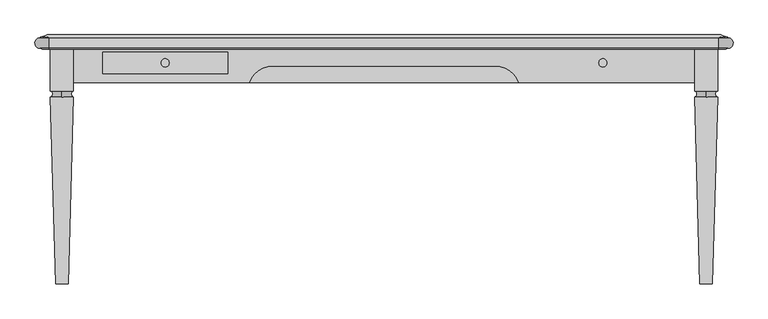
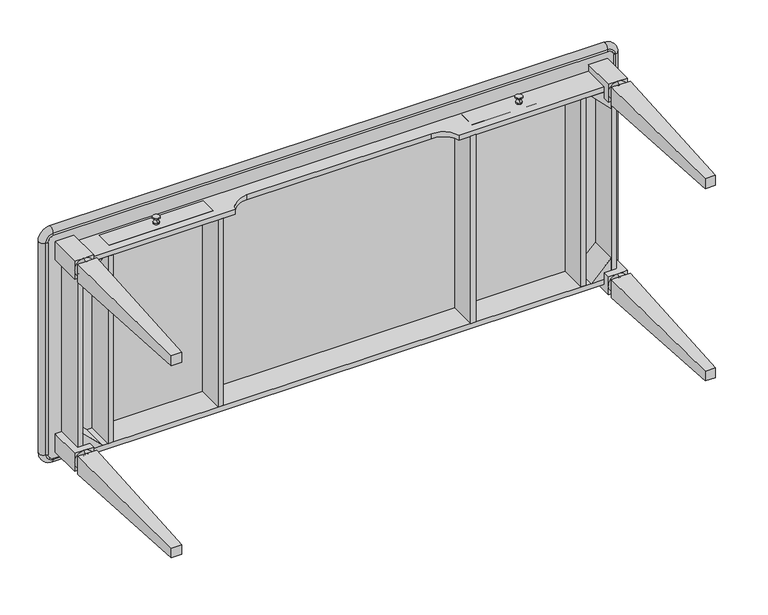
"""IFC4 building model written with IfcOpenShell, lengths in millimetres: proxy geometry, CCN^BRIGHTON_36x84 TABLE DESK-PARTS SOLID."""

from ifc_helpers import new_model, si_unit, point, frame, frame_2d, origin, origin_with_axes, place, context, project, spatial, polyline, circle_curve, ellipse_curve, trimmed, segment, composite_curve, outline, extrude, source, transform, mapped, element, save
from ifc_brep_helpers import plane_surface, cylinder_surface, revolved_surface, advanced_brep


def generic_models_e164af76(model_context):
    return source(origin(), model_context, "Body", "SolidModel", [
        advanced_brep(
        [(324.8460245, 663.775, 789.35), (324.8460245, 663.775, 793.35), (324.8460245, 688.775, 793.35), (324.8460245, 688.775, 789.35), (324.8460245, 669.775, 780.2785106), (324.8460245, 665.775, 772.35), (324.8460245, 686.775, 772.35), (324.8460245, 682.775, 780.2785106), (324.8460245, 665.775, 768.35), (324.8460245, 686.775, 768.35)],
        [
            (0, 1),
            (1, 2, circle_curve(frame((324.8460245, 676.275, 793.35), z_axis=(0.0, 0.0, -1.0), x_axis=(0.0, -1.0, 0.0)), 12.5)),
            (2, 3),
            (3, 0, circle_curve(frame((324.8460245, 676.275, 789.35), z_axis=(0.0, 0.0, 1.0), x_axis=(0.0, -1.0, 0.0)), 12.5)),
            (0, 4, circle_curve(frame((324.8460245, 659.91734, 780.2785106), z_axis=(-1.0, 0.0, 0.0), x_axis=(0.0, -1.0, 0.0)), 9.85766)),
            (4, 5, circle_curve(frame((324.8460245, 659.91734, 780.2785106), z_axis=(-1.0, 0.0, 0.0), x_axis=(0.0, -1.0, 0.0)), 9.85766)),
            (5, 6, circle_curve(frame((324.8460245, 676.275, 772.35), z_axis=(0.0, 0.0, 1.0), x_axis=(0.0, -1.0, 0.0)), 10.5)),
            (6, 7, circle_curve(frame((324.8460245, 692.63266, 780.2785106), z_axis=(-1.0, 0.0, 0.0), x_axis=(0.0, 1.0, 0.0)), 9.85766)),
            (7, 3, circle_curve(frame((324.8460245, 692.63266, 780.2785106), z_axis=(-1.0, 0.0, 0.0), x_axis=(0.0, 1.0, 0.0)), 9.85766)),
            (3, 0, circle_curve(frame((324.8460245, 676.275, 789.35), z_axis=(0.0, 0.0, -1.0), x_axis=(0.0, -1.0, 0.0)), 12.5)),
            (8, 5),
            (5, 6, circle_curve(frame((324.8460245, 676.275, 772.35), z_axis=(0.0, 0.0, -1.0), x_axis=(0.0, -1.0, 0.0)), 10.5)),
            (6, 9),
            (9, 8, circle_curve(frame((324.8460245, 676.275, 768.35), z_axis=(0.0, 0.0, 1.0), x_axis=(0.0, -1.0, 0.0)), 10.5)),
            (9, 8, circle_curve(frame((324.8460245, 676.275, 768.35), z_axis=(0.0, 0.0, -1.0), x_axis=(0.0, -1.0, 0.0)), 10.5)),
            (2, 1, circle_curve(frame((324.8460245, 676.275, 793.35), z_axis=(0.0, 0.0, -1.0), x_axis=(0.0, -1.0, 0.0)), 12.5)),
        ],
        [
            cylinder_surface(frame((324.8460245, 676.275, 791.35), z_axis=(0.0, 0.0, 1.0), x_axis=(0.0, -1.0, 0.0)), 12.5),
            revolved_surface(trimmed(ellipse_curve(frame((324.8460245, 659.91734, 780.2785106), z_axis=(1.0, 0.0, 0.0), x_axis=(0.0, -1.0, 0.0)), 9.85766, 9.85766), [point((324.8460245, 665.775, 772.35))], [point((324.8460245, 663.775, 789.35))], True, "CARTESIAN"), (324.8460245, 676.275, 780.2785106), (0.0, 0.0, 1.0)),
            cylinder_surface(frame((324.8460245, 676.275, 770.35), z_axis=(0.0, 0.0, 1.0), x_axis=(0.0, -1.0, 0.0)), 10.5),
            plane_surface(frame((324.8460245, 665.775, 768.35), z_axis=(0.0, 0.0, -1.0), x_axis=(0.0, 1.0, 0.0))),
            revolved_surface(trimmed(ellipse_curve(frame((324.8460245, 692.63266, 780.2785106), z_axis=(-1.0, 0.0, 0.0), x_axis=(0.0, 1.0, 0.0)), 9.85766, 9.85766), [point((324.8460245, 686.775, 772.35))], [point((324.8460245, 688.775, 789.35))], True, "CARTESIAN"), (324.8460245, 676.275, 780.2785106), (0.0, 0.0, 1.0)),
            plane_surface(frame((324.8460245, 676.275, 793.35), z_axis=(0.0, 0.0, 1.0), x_axis=(0.0, -1.0, 0.0))),
        ],
        [
            (0, [[1, 2, 3, 4]]),
            (1, [[5, 6, 7, 8, 9, 10]]),
            (2, [[11, 12, 13, 14]]),
            (3, [[15, -14]]),
            (2, [[-11, -15, -13, -7]]),
            (4, [[-5, -4, -9, -8, -12, -6]]),
            (0, [[-1, -10, -3, 16]]),
            (5, [[-16, -2]]),
        ],
    ),
        advanced_brep(
        [(1662.7039755, 663.775, 789.35), (1662.7039755, 663.775, 793.35), (1662.7039755, 688.775, 793.35), (1662.7039755, 688.775, 789.35), (1662.7039755, 669.775, 780.2785106), (1662.7039755, 665.775, 772.35), (1662.7039755, 686.775, 772.35), (1662.7039755, 682.775, 780.2785106), (1662.7039755, 665.775, 768.35), (1662.7039755, 686.775, 768.35)],
        [
            (0, 1),
            (1, 2, circle_curve(frame((1662.7039755, 676.275, 793.35), z_axis=(0.0, 0.0, -1.0), x_axis=(0.0, -1.0, 0.0)), 12.5)),
            (2, 3),
            (3, 0, circle_curve(frame((1662.7039755, 676.275, 789.35), z_axis=(0.0, 0.0, 1.0), x_axis=(0.0, -1.0, 0.0)), 12.5)),
            (0, 4, circle_curve(frame((1662.7039755, 659.91734, 780.2785106), z_axis=(-1.0, 0.0, 0.0), x_axis=(0.0, -1.0, 0.0)), 9.85766)),
            (4, 5, circle_curve(frame((1662.7039755, 659.91734, 780.2785106), z_axis=(-1.0, 0.0, 0.0), x_axis=(0.0, -1.0, 0.0)), 9.85766)),
            (5, 6, circle_curve(frame((1662.7039755, 676.275, 772.35), z_axis=(0.0, 0.0, 1.0), x_axis=(0.0, -1.0, 0.0)), 10.5)),
            (6, 7, circle_curve(frame((1662.7039755, 692.63266, 780.2785106), z_axis=(-1.0, 0.0, 0.0), x_axis=(0.0, 1.0, 0.0)), 9.85766)),
            (7, 3, circle_curve(frame((1662.7039755, 692.63266, 780.2785106), z_axis=(-1.0, 0.0, 0.0), x_axis=(0.0, 1.0, 0.0)), 9.85766)),
            (3, 0, circle_curve(frame((1662.7039755, 676.275, 789.35), z_axis=(0.0, 0.0, -1.0), x_axis=(0.0, -1.0, 0.0)), 12.5)),
            (8, 5),
            (5, 6, circle_curve(frame((1662.7039755, 676.275, 772.35), z_axis=(0.0, 0.0, -1.0), x_axis=(0.0, -1.0, 0.0)), 10.5)),
            (6, 9),
            (9, 8, circle_curve(frame((1662.7039755, 676.275, 768.35), z_axis=(0.0, 0.0, 1.0), x_axis=(0.0, -1.0, 0.0)), 10.5)),
            (9, 8, circle_curve(frame((1662.7039755, 676.275, 768.35), z_axis=(0.0, 0.0, -1.0), x_axis=(0.0, -1.0, 0.0)), 10.5)),
            (2, 1, circle_curve(frame((1662.7039755, 676.275, 793.35), z_axis=(0.0, 0.0, -1.0), x_axis=(0.0, -1.0, 0.0)), 12.5)),
        ],
        [
            cylinder_surface(frame((1662.7039755, 676.275, 791.35), z_axis=(0.0, 0.0, 1.0), x_axis=(0.0, -1.0, 0.0)), 12.5),
            revolved_surface(trimmed(ellipse_curve(frame((1662.7039755, 659.91734, 780.2785106), z_axis=(1.0, 0.0, 0.0), x_axis=(0.0, -1.0, 0.0)), 9.85766, 9.85766), [point((1662.7039755, 665.775, 772.35))], [point((1662.7039755, 663.775, 789.35))], True, "CARTESIAN"), (1662.7039755, 676.275, 780.2785106), (0.0, 0.0, 1.0)),
            cylinder_surface(frame((1662.7039755, 676.275, 770.35), z_axis=(0.0, 0.0, 1.0), x_axis=(0.0, -1.0, 0.0)), 10.5),
            plane_surface(frame((1662.7039755, 665.775, 768.35), z_axis=(0.0, 0.0, -1.0), x_axis=(0.0, 1.0, 0.0))),
            revolved_surface(trimmed(ellipse_curve(frame((1662.7039755, 692.63266, 780.2785106), z_axis=(-1.0, 0.0, 0.0), x_axis=(0.0, 1.0, 0.0)), 9.85766, 9.85766), [point((1662.7039755, 686.775, 772.35))], [point((1662.7039755, 688.775, 789.35))], True, "CARTESIAN"), (1662.7039755, 676.275, 780.2785106), (0.0, 0.0, 1.0)),
            plane_surface(frame((1662.7039755, 676.275, 793.35), z_axis=(0.0, 0.0, 1.0), x_axis=(0.0, -1.0, 0.0))),
        ],
        [
            (0, [[1, 2, 3, 4]]),
            (1, [[5, 6, 7, 8, 9, 10]]),
            (2, [[11, 12, 13, 14]]),
            (3, [[15, -14]]),
            (2, [[-11, -15, -13, -7]]),
            (4, [[-5, -4, -9, -8, -12, -6]]),
            (0, [[-1, -10, -3, 16]]),
            (5, [[-16, -2]]),
        ],
    ),
        advanced_brep(
        [(-28.575, 717.55, -50.0632387), (2016.125, 717.55, -50.0632387), (2037.6132387, 717.55, -28.575), (2037.6132387, 717.55, 796.925), (2016.125, 717.55, 818.4132387), (-28.575, 717.55, 818.4132387), (-50.0632387, 717.55, 796.925), (-50.0632387, 717.55, -28.575), (-35.1859266, 762.0, -35.1859266), (-35.1859266, 762.0, 803.5359266), (2022.7359266, 762.0, 803.5359266), (2022.7359266, 762.0, -35.1859266), (-48.7805763, 757.0519522, -48.7805763), (-57.15, 754.0057311, -28.575), (-57.15, 754.0057311, 796.925), (-48.7805763, 757.0519522, 817.1305763), (2036.3305763, 757.0519522, -48.7805763), (2016.125, 754.0057311, -57.15), (-28.575, 754.0057311, -57.15), (-28.575, 752.4182311, -57.15), (-57.15, 752.4182311, -28.575), (-28.575, 754.0057311, 825.5), (2016.125, 754.0057311, 825.5), (2036.3305763, 757.0519522, 817.1305763), (-57.15, 752.4182311, 796.925), (-28.575, 752.4182311, 825.5), (2044.7, 754.0057311, 796.925), (2044.7, 754.0057311, -28.575), (2016.125, 752.4182311, 825.5), (2044.7, 752.4182311, 796.925), (2044.7, 752.4182311, -28.575), (2016.125, 752.4182311, -57.15), (2016.125, 720.7087803, -56.0160714), (-28.575, 720.7087803, -56.0160714), (2043.5660714, 720.7087803, -28.575), (2043.5660714, 720.7087803, 796.925), (2016.125, 720.7087803, 824.3660714), (-28.575, 720.7087803, 824.3660714), (-56.0160714, 720.7087803, 796.925), (-56.0160714, 720.7087803, -28.575)],
        [
            (0, 1),
            (1, 2, circle_curve(frame((2016.125, 717.55, -28.575), z_axis=(0.0, -1.0, 0.0), x_axis=(1.0, 0.0, 0.0)), 21.4882387)),
            (2, 3),
            (3, 4, circle_curve(frame((2016.125, 717.55, 796.925), z_axis=(0.0, -1.0, 0.0), x_axis=(0.0, 0.0, 1.0)), 21.4882387)),
            (4, 5),
            (5, 6, circle_curve(frame((-28.575, 717.55, 796.925), z_axis=(0.0, -1.0, 0.0), x_axis=(-1.0, 0.0, 0.0)), 21.4882387)),
            (6, 7),
            (7, 0, circle_curve(frame((-28.575, 717.55, -28.575), z_axis=(0.0, -1.0, 0.0), x_axis=(0.0, 0.0, -1.0)), 21.4882387)),
            (8, 9),
            (9, 10),
            (10, 11),
            (11, 8),
            (12, 13, ellipse_curve(frame((-28.575, 764.4061805, -28.575), z_axis=(-0.3420201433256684, 0.9396926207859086, 0.0), x_axis=(0.9396926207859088, 0.34202014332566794, 0.0)), 30.4088798, 28.575)),
            (13, 14),
            (14, 15, ellipse_curve(frame((-28.575, 764.4061805, 796.925), z_axis=(-0.3420201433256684, 0.9396926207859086, 0.0), x_axis=(0.9396926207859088, 0.34202014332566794, 0.0)), 30.4088798, 28.575)),
            (15, 9),
            (8, 12),
            (11, 16),
            (16, 17, ellipse_curve(frame((2016.125, 764.4061805, -28.575), z_axis=(0.0, 0.9396926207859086, -0.34202014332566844), x_axis=(0.0, 0.342020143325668, 0.9396926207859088)), 30.4088798, 28.575)),
            (17, 18),
            (18, 12, ellipse_curve(frame((-28.575, 764.4061805, -28.575), z_axis=(0.0, 0.9396926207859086, -0.34202014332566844), x_axis=(0.0, 0.342020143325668, 0.9396926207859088)), 30.4088798, 28.575)),
            (18, 19),
            (19, 20, circle_curve(frame((-28.575, 752.4182311, -28.575), z_axis=(0.0, 1.0, 0.0), x_axis=(0.0, 0.0, -1.0)), 28.575)),
            (20, 13),
            (15, 21, ellipse_curve(frame((-28.575, 764.4061805, 796.925), z_axis=(0.0, 0.9396926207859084, 0.34202014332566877), x_axis=(0.0, 0.3420201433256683, -0.9396926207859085)), 30.4088798, 28.575)),
            (21, 22),
            (22, 23, ellipse_curve(frame((2016.125, 764.4061805, 796.925), z_axis=(0.0, 0.9396926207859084, 0.34202014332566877), x_axis=(0.0, 0.3420201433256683, -0.9396926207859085)), 30.4088798, 28.575)),
            (23, 10),
            (14, 24),
            (24, 25, circle_curve(frame((-28.575, 752.4182311, 796.925), z_axis=(0.0, 1.0, 0.0), x_axis=(-1.0, 0.0, 0.0)), 28.575)),
            (25, 21),
            (23, 26, ellipse_curve(frame((2016.125, 764.4061805, 796.925), z_axis=(0.3420201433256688, 0.9396926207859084, 0.0), x_axis=(-0.9396926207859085, 0.3420201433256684, 0.0)), 30.4088798, 28.575)),
            (26, 27),
            (27, 16, ellipse_curve(frame((2016.125, 764.4061805, -28.575), z_axis=(0.3420201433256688, 0.9396926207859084, 0.0), x_axis=(-0.9396926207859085, 0.3420201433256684, 0.0)), 30.4088798, 28.575)),
            (22, 28),
            (28, 29, circle_curve(frame((2016.125, 752.4182311, 796.925), z_axis=(0.0, 1.0, 0.0), x_axis=(0.0, 0.0, 1.0)), 28.575)),
            (29, 26),
            (27, 30),
            (30, 31, circle_curve(frame((2016.125, 752.4182311, -28.575), z_axis=(0.0, 1.0, 0.0), x_axis=(1.0, 0.0, 0.0)), 28.575)),
            (31, 17),
            (32, 1, circle_curve(frame((2016.125, 714.375, -55.5625), z_axis=(1.0, 0.0, 0.0), x_axis=(0.0, 0.9974457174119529, -0.07142857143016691)), 6.35)),
            (0, 33, circle_curve(frame((-28.575, 714.375, -55.5625), z_axis=(-1.0, 0.0, 0.0), x_axis=(0.0, 0.9974457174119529, -0.07142857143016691)), 6.35)),
            (33, 32),
            (34, 2, circle_curve(frame((2043.1125, 714.375, -28.575), z_axis=(0.0, 0.0, 1.0), x_axis=(1.0, 0.0, 0.0)), 6.35)),
            (32, 34, circle_curve(frame((2016.125, 720.7087803, -28.575), z_axis=(0.0, -1.0, 0.0), x_axis=(1.0, 0.0, 0.0)), 27.4410714)),
            (35, 3, circle_curve(frame((2043.1125, 714.375, 796.925), z_axis=(0.0, 0.0, 1.0), x_axis=(0.07142857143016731, 0.9974457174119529, 0.0)), 6.35)),
            (34, 35),
            (36, 4, circle_curve(frame((2016.125, 714.375, 823.9125), z_axis=(-1.0, 0.0, 0.0), x_axis=(0.0, 0.0, 1.0)), 6.35)),
            (35, 36, circle_curve(frame((2016.125, 720.7087803, 796.925), z_axis=(0.0, -1.0, 0.0), x_axis=(0.0, 0.0, 1.0)), 27.4410714)),
            (37, 5, circle_curve(frame((-28.575, 714.375, 823.9125), z_axis=(-1.0, 0.0, 0.0), x_axis=(0.0, 0.9974457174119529, 0.07142857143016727)), 6.35)),
            (36, 37),
            (38, 6, circle_curve(frame((-55.5625, 714.375, 796.925), z_axis=(0.0, 0.0, -1.0), x_axis=(-1.0, 0.0, 0.0)), 6.35)),
            (37, 38, circle_curve(frame((-28.575, 720.7087803, 796.925), z_axis=(0.0, -1.0, 0.0), x_axis=(-1.0, 0.0, 0.0)), 27.4410714)),
            (39, 7, circle_curve(frame((-55.5625, 714.375, -28.575), z_axis=(0.0, 0.0, -1.0), x_axis=(-0.07142857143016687, 0.9974457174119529, 0.0)), 6.35)),
            (38, 39),
            (39, 33, circle_curve(frame((-28.575, 720.7087803, -28.575), z_axis=(0.0, -1.0, 0.0), x_axis=(0.0, 0.0, -1.0)), 27.4410714)),
            (31, 19),
            (31, 32, circle_curve(frame((2016.125, 736.5432311, -57.15), z_axis=(-1.0, 0.0, 0.0), x_axis=(0.0, 0.996424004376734, -0.08449380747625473)), 15.875)),
            (33, 19, circle_curve(frame((-28.575, 736.5432311, -57.15), z_axis=(1.0, 0.0, 0.0), x_axis=(0.0, 0.996424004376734, -0.08449380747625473)), 15.875)),
            (30, 34, circle_curve(frame((2044.7, 736.5432311, -28.575), z_axis=(0.0, 0.0, -1.0), x_axis=(1.0, 0.0, 0.0)), 15.875)),
            (29, 30),
            (29, 35, circle_curve(frame((2044.7, 736.5432311, 796.925), z_axis=(0.0, 0.0, -1.0), x_axis=(0.08449380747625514, 0.996424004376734, 0.0)), 15.875)),
            (28, 36, circle_curve(frame((2016.125, 736.5432311, 825.5), z_axis=(1.0, 0.0, 0.0), x_axis=(0.0, 0.0, 1.0)), 15.875)),
            (25, 28),
            (25, 37, circle_curve(frame((-28.575, 736.5432311, 825.5), z_axis=(1.0, 0.0, 0.0), x_axis=(0.0, 0.996424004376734, 0.0844938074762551)), 15.875)),
            (24, 38, circle_curve(frame((-57.15, 736.5432311, 796.925), z_axis=(0.0, 0.0, 1.0), x_axis=(-1.0, 0.0, 0.0)), 15.875)),
            (20, 24),
            (20, 39, circle_curve(frame((-57.15, 736.5432311, -28.575), z_axis=(0.0, 0.0, 1.0), x_axis=(-0.08449380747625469, 0.996424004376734, 0.0)), 15.875)),
        ],
        [
            plane_surface(frame((993.775, 717.55, 384.175), z_axis=(0.0, -1.0, 0.0), x_axis=(0.0, 0.0, 1.0))),
            plane_surface(frame((993.775, 762.0, 384.175), z_axis=(0.0, 1.0, 0.0), x_axis=(0.0, 0.0, 1.0))),
            plane_surface(frame((-57.15, 754.0057311, -28.575), z_axis=(-0.3420201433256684, 0.9396926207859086, 0.0), x_axis=(0.9396926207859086, 0.3420201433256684, 0.0))),
            plane_surface(frame((2016.125, 754.0057311, -57.15), z_axis=(0.0, 0.9396926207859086, -0.34202014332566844), x_axis=(0.0, 0.34202014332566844, 0.9396926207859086))),
            cylinder_surface(frame((-28.575, 753.2119811, -28.575), z_axis=(0.0, 1.0, 0.0), x_axis=(0.0, 0.0, -1.0)), 28.575),
            plane_surface(frame((-28.575, 754.0057311, 825.5), z_axis=(0.0, 0.9396926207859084, 0.34202014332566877), x_axis=(0.0, 0.34202014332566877, -0.9396926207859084))),
            cylinder_surface(frame((-28.575, 753.2119811, 796.925), z_axis=(0.0, 1.0, 0.0), x_axis=(-1.0, 0.0, 0.0)), 28.575),
            plane_surface(frame((2044.7, 754.0057311, 796.925), z_axis=(0.3420201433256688, 0.9396926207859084, 0.0), x_axis=(-0.9396926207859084, 0.3420201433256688, 0.0))),
            cylinder_surface(frame((2016.125, 753.2119811, 796.925), z_axis=(0.0, 1.0, 0.0), x_axis=(0.0, 0.0, 1.0)), 28.575),
            cylinder_surface(frame((2016.125, 753.2119811, -28.575), z_axis=(0.0, 1.0, 0.0), x_axis=(1.0, 0.0, 0.0)), 28.575),
            revolved_surface(polyline([(-28.57499999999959, 720.7087803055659, -56.01607142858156), (2016.125, 720.7087803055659, -56.01607142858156)]), (2016.125, 714.375, -55.5625), (-0.9999999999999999, 0.0, 0.0)),
            revolved_surface(trimmed(ellipse_curve(frame((2043.1125, 714.375, -28.575), z_axis=(0.0, 0.0, -1.0), x_axis=(1.0, 0.0, 0.0)), 6.35, 6.35), [point((2037.6132387, 717.55, -28.575))], [point((2043.5660714, 720.7087803, -28.575))], True, "CARTESIAN"), (2016.125, 714.375, -28.575), (0.0, 1.0, 0.0)),
            revolved_surface(polyline([(2043.5660714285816, 720.7087803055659, -28.574999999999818), (2043.5660714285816, 720.7087803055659, 796.925)]), (2043.1125, 714.375, 796.925), (0.0, 0.0, -0.9999999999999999)),
            revolved_surface(trimmed(ellipse_curve(frame((2016.125, 714.375, 823.9125), z_axis=(1.0, 0.0, 0.0), x_axis=(0.0, 0.0, 1.0)), 6.35, 6.35), [point((2016.125, 717.55, 818.4132387))], [point((2016.125, 720.7087803, 824.3660714))], True, "CARTESIAN"), (2016.125, 714.375, 796.925), (0.0, 1.0, 0.0)),
            revolved_surface(polyline([(2016.1249999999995, 720.7087803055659, 824.3660714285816), (-28.575, 720.7087803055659, 824.3660714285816)]), (-28.575, 714.375, 823.9125), (0.9999999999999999, 0.0, 0.0)),
            revolved_surface(trimmed(ellipse_curve(frame((-55.5625, 714.375, 796.925), z_axis=(0.0, 0.0, 1.0), x_axis=(-1.0, 0.0, 0.0)), 6.35, 6.35), [point((-50.0632387, 717.55, 796.925))], [point((-56.0160714, 720.7087803, 796.925))], True, "CARTESIAN"), (-28.575, 714.375, 796.925), (0.0, 1.0, 0.0)),
            revolved_surface(polyline([(-56.01607142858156, 720.7087803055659, 796.9249999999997), (-56.01607142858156, 720.7087803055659, -28.575)]), (-55.5625, 714.375, -28.575), (0.0, 0.0, 0.9999999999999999)),
            revolved_surface(trimmed(ellipse_curve(frame((-28.575, 714.375, -55.5625), z_axis=(-1.0, 0.0, 0.0), x_axis=(0.0, 0.0, -1.0)), 6.35, 6.35), [point((-28.575, 717.55, -50.0632387))], [point((-28.575, 720.7087803, -56.0160714))], True, "CARTESIAN"), (-28.575, 714.375, -28.575), (0.0, 1.0, 0.0)),
            plane_surface(frame((2016.125, 752.4182311, -57.15), z_axis=(0.0, 0.0, -1.0), x_axis=(0.0, 1.0, 0.0))),
            cylinder_surface(frame((2016.125, 736.5432311, -57.15), z_axis=(-0.9999999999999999, 0.0, 0.0), x_axis=(0.0, 0.996424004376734, -0.08449380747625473)), 15.875),
            revolved_surface(trimmed(ellipse_curve(frame((2044.7, 736.5432311, -28.575), z_axis=(0.0, 0.0, 1.0), x_axis=(1.0, 0.0, 0.0)), 15.875, 15.875), [point((2043.5660714, 720.7087803, -28.575))], [point((2044.7, 752.4182311, -28.575))], True, "CARTESIAN"), (2016.125, 736.5432311, -28.575), (0.0, 1.0, 0.0)),
            plane_surface(frame((2044.7, 752.4182311, 796.925), z_axis=(1.0, 0.0, 0.0), x_axis=(0.0, 1.0, 0.0))),
            cylinder_surface(frame((2044.7, 736.5432311, 796.925), z_axis=(0.0, 0.0, -0.9999999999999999), x_axis=(0.08449380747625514, 0.996424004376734, 0.0)), 15.875),
            revolved_surface(trimmed(ellipse_curve(frame((2016.125, 736.5432311, 825.5), z_axis=(-1.0, 0.0, 0.0), x_axis=(0.0, 0.0, 1.0)), 15.875, 15.875), [point((2016.125, 720.7087803, 824.3660714))], [point((2016.125, 752.4182311, 825.5))], True, "CARTESIAN"), (2016.125, 736.5432311, 796.925), (0.0, 1.0, 0.0)),
            plane_surface(frame((-28.575, 752.4182311, 825.5), z_axis=(0.0, 0.0, 1.0), x_axis=(0.0, 1.0, 0.0))),
            cylinder_surface(frame((-28.575, 736.5432311, 825.5), z_axis=(0.9999999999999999, 0.0, 0.0), x_axis=(0.0, 0.996424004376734, 0.0844938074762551)), 15.875),
            revolved_surface(trimmed(ellipse_curve(frame((-57.15, 736.5432311, 796.925), z_axis=(0.0, 0.0, -1.0), x_axis=(-1.0, 0.0, 0.0)), 15.875, 15.875), [point((-56.0160714, 720.7087803, 796.925))], [point((-57.15, 752.4182311, 796.925))], True, "CARTESIAN"), (-28.575, 736.5432311, 796.925), (0.0, 1.0, 0.0)),
            plane_surface(frame((-57.15, 752.4182311, -28.575), z_axis=(-1.0, 0.0, 0.0), x_axis=(0.0, 1.0, 0.0))),
            cylinder_surface(frame((-57.15, 736.5432311, -28.575), z_axis=(0.0, 0.0, 0.9999999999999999), x_axis=(-0.08449380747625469, 0.996424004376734, 0.0)), 15.875),
            revolved_surface(trimmed(ellipse_curve(frame((-28.575, 736.5432311, -57.15), z_axis=(1.0, 0.0, 0.0), x_axis=(0.0, 0.0, -1.0)), 15.875, 15.875), [point((-28.575, 720.7087803, -56.0160714))], [point((-28.575, 752.4182311, -57.15))], True, "CARTESIAN"), (-28.575, 736.5432311, -28.575), (0.0, 1.0, 0.0)),
        ],
        [
            (0, [[1, 2, 3, 4, 5, 6, 7, 8]]),
            (1, [[9, 10, 11, 12]]),
            (2, [[13, 14, 15, 16, -9, 17]]),
            (3, [[-17, -12, 18, 19, 20, 21]]),
            (4, [[-13, -21, 22, 23, 24]]),
            (5, [[25, 26, 27, 28, -10, -16]]),
            (6, [[-25, -15, 29, 30, 31]]),
            (7, [[32, 33, 34, -18, -11, -28]]),
            (8, [[-32, -27, 35, 36, 37]]),
            (9, [[-19, -34, 38, 39, 40]]),
            (10, [[41, -1, 42, 43]]),
            (11, [[44, -2, -41, 45]]),
            (12, [[46, -3, -44, 47]]),
            (13, [[48, -4, -46, 49]]),
            (14, [[50, -5, -48, 51]]),
            (15, [[52, -6, -50, 53]]),
            (16, [[54, -7, -52, 55]]),
            (17, [[-42, -8, -54, 56]]),
            (18, [[-40, 57, -22, -20]]),
            (19, [[58, -43, 59, -57]]),
            (20, [[60, -45, -58, -39]]),
            (21, [[-37, 61, -38, -33]]),
            (22, [[62, -47, -60, -61]]),
            (23, [[63, -49, -62, -36]]),
            (24, [[-31, 64, -35, -26]]),
            (25, [[65, -51, -63, -64]]),
            (26, [[66, -53, -65, -30]]),
            (27, [[-24, 67, -29, -14]]),
            (28, [[68, -55, -66, -67]]),
            (29, [[-59, -56, -68, -23]]),
        ],
    ),
        advanced_brep(
        [(1978.025, 590.55, 44.45), (1978.025, 581.025, 38.1), (1978.025, 571.5, 44.45), (2012.95, 571.5, 9.525), (1978.025, 571.5, -25.4), (1978.025, 581.025, -19.05), (1978.025, 590.55, -25.4), (2012.95, 590.55, 9.525), (1943.1, 723.9, -25.4), (1943.1, 723.9, 44.45), (2012.95, 723.9, 44.45), (2012.95, 723.9, -25.4), (1943.1, 590.55, 44.45), (2012.95, 590.55, 44.45), (1943.1, 590.55, 9.525), (2012.95, 571.5, -25.4), (1997.075, 0.0, -9.525), (1958.975, 0.0, -9.525), (1943.1, 571.5, -25.4), (1997.075, 0.0, 28.575), (2012.95, 571.5, 44.45), (1943.1, 571.5, 44.45), (1958.975, 0.0, 28.575), (1943.1, 571.5, 9.525), (1943.1, 590.55, -25.4), (2012.95, 590.55, -25.4)],
        [
            (0, 1, circle_curve(frame((1978.025, 581.025, 48.41875), z_axis=(-1.0, 0.0, 0.0), x_axis=(0.0, 0.0, 1.0)), 10.31875)),
            (1, 2, circle_curve(frame((1978.025, 581.025, 48.41875), z_axis=(-1.0, 0.0, 0.0), x_axis=(0.0, 0.0, 1.0)), 10.31875)),
            (2, 3, circle_curve(frame((1978.025, 571.5, 9.525), z_axis=(0.0, 1.0, 0.0), x_axis=(0.0, 0.0, 1.0)), 34.925)),
            (3, 4, circle_curve(frame((1978.025, 571.5, 9.525), z_axis=(0.0, 1.0, 0.0), x_axis=(0.0, 0.0, 1.0)), 34.925)),
            (4, 5, circle_curve(frame((1978.025, 581.025, -29.36875), z_axis=(-1.0, 0.0, 0.0), x_axis=(0.0, 0.0, -1.0)), 10.31875)),
            (5, 6, circle_curve(frame((1978.025, 581.025, -29.36875), z_axis=(-1.0, 0.0, 0.0), x_axis=(0.0, 0.0, -1.0)), 10.31875)),
            (6, 7, circle_curve(frame((1978.025, 590.55, 9.525), z_axis=(0.0, -1.0, 0.0), x_axis=(0.0, 0.0, 1.0)), 34.925)),
            (7, 0, circle_curve(frame((1978.025, 590.55, 9.525), z_axis=(0.0, -1.0, 0.0), x_axis=(0.0, 0.0, 1.0)), 34.925)),
            (8, 9),
            (9, 10),
            (10, 11),
            (11, 8),
            (9, 12),
            (12, 0),
            (0, 13),
            (13, 10),
            (12, 14),
            (14, 0, circle_curve(frame((1978.025, 590.55, 9.525), z_axis=(0.0, 1.0, 0.0), x_axis=(0.0, 0.0, -1.0)), 34.925)),
            (15, 16),
            (16, 17),
            (17, 18),
            (18, 4),
            (4, 15),
            (19, 20),
            (20, 2),
            (2, 21),
            (21, 22),
            (22, 19),
            (17, 22),
            (21, 23),
            (23, 18),
            (15, 3),
            (3, 20),
            (19, 16),
            (14, 6, circle_curve(frame((1978.025, 590.55, 9.525), z_axis=(0.0, -1.0, 0.0), x_axis=(0.0, 0.0, -1.0)), 34.925)),
            (4, 23, circle_curve(frame((1978.025, 571.5, 9.525), z_axis=(0.0, 1.0, 0.0), x_axis=(0.0, 0.0, -1.0)), 34.925)),
            (23, 2, circle_curve(frame((1978.025, 571.5, 9.525), z_axis=(0.0, 1.0, 0.0), x_axis=(0.0, 0.0, -1.0)), 34.925)),
            (14, 24),
            (24, 6),
            (7, 13),
            (6, 25),
            (25, 7),
            (8, 24),
            (25, 11),
        ],
        [
            revolved_surface(trimmed(ellipse_curve(frame((1978.025, 581.025, 48.41875), z_axis=(1.0, 0.0, 0.0), x_axis=(0.0, 0.0, 1.0)), 10.31875, 10.31875), [point((1978.025, 571.5, 44.45))], [point((1978.025, 590.55, 44.45))], True, "CARTESIAN"), (1978.025, 581.025, 9.525), (0.0, 1.0, 0.0)),
            plane_surface(frame((1978.025, 723.9, 9.525), z_axis=(0.0, 1.0, 0.0), x_axis=(0.0, 0.0, -1.0))),
            plane_surface(frame((2012.95, 723.9, 44.45), z_axis=(0.0, 0.0, 1.0), x_axis=(-1.0, 0.0, 0.0))),
            plane_surface(frame((1978.025, 590.55, 9.525), z_axis=(0.0, -1.0, 0.0), x_axis=(0.0, 0.0, -1.0))),
            plane_surface(frame((-25.4, 571.5, -25.4), z_axis=(0.0, -0.027767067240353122, -0.9996144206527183), x_axis=(0.0, -0.9996144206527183, 0.027767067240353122))),
            plane_surface(frame((-25.4, 0.0, 28.575), z_axis=(0.0, -0.027767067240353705, 0.9996144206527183), x_axis=(0.0, 0.9996144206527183, 0.027767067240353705))),
            plane_surface(frame((1958.975, 0.0, -25.4), z_axis=(-0.9996144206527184, -0.02776706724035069, 0.0), x_axis=(-0.02776706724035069, 0.9996144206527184, 0.0))),
            plane_surface(frame((2012.95, 571.5, -25.4), z_axis=(0.9996144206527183, -0.027767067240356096, 0.0), x_axis=(-0.027767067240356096, -0.9996144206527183, 0.0))),
            revolved_surface(trimmed(ellipse_curve(frame((1978.025, 581.025, -29.36875), z_axis=(-1.0, 0.0, 0.0), x_axis=(0.0, 0.0, -1.0)), 10.31875, 10.31875), [point((1978.025, 571.5, -25.4))], [point((1978.025, 590.55, -25.4))], True, "CARTESIAN"), (1978.025, 581.025, 9.525), (0.0, 1.0, 0.0)),
            plane_surface(frame((1978.025, 571.5, 9.525), z_axis=(0.0, 1.0, 0.0), x_axis=(0.0, 0.0, -1.0))),
            plane_surface(frame((1943.1, 723.9, 44.45), z_axis=(-1.0, 0.0, 0.0), x_axis=(0.0, 0.0, -1.0))),
            plane_surface(frame((2012.95, 723.9, -25.4), z_axis=(1.0, 0.0, 0.0), x_axis=(0.0, 0.0, 1.0))),
            plane_surface(frame((1943.1, 723.9, -25.4), z_axis=(0.0, 0.0, -1.0), x_axis=(1.0, 0.0, 0.0))),
            plane_surface(frame((1978.025, 0.0, 9.525), z_axis=(0.0, -1.0, 0.0), x_axis=(0.0, 0.0, -1.0))),
        ],
        [
            (0, [[1, 2, 3, 4, 5, 6, 7, 8]]),
            (1, [[9, 10, 11, 12]]),
            (2, [[13, 14, 15, 16, -10]]),
            (3, [[17, 18, -14]]),
            (4, [[19, 20, 21, 22, 23]]),
            (5, [[24, 25, 26, 27, 28]]),
            (6, [[-21, 29, -27, 30, 31]]),
            (7, [[-19, 32, 33, -24, 34]]),
            (8, [[-1, -18, 35, -6, -5, 36, 37, -2]]),
            (3, [[-35, 38, 39]]),
            (3, [[-8, 40, -15]]),
            (3, [[-7, 41, 42]]),
            (9, [[-4, -32, -23]]),
            (9, [[-3, -25, -33]]),
            (9, [[-37, -30, -26]]),
            (9, [[-36, -22, -31]]),
            (10, [[-9, 43, -38, -17, -13]]),
            (11, [[-40, -42, 44, -11, -16]]),
            (12, [[-41, -39, -43, -12, -44]]),
            (13, [[-20, -34, -28, -29]]),
        ],
    ),
        extrude(outline(polyline([(1875.4289755, 723.9), (1875.4289755, 615.95), (1856.3789755, 615.95), (1856.3789755, 723.9), (1875.4289755, 723.9)])), frame((0.0, 0.0, 19.05), z_axis=(0.0, 0.0, 1.0), x_axis=(1.0, 0.0, 0.0)), (0.0, 0.0, 1.0), 730.25),
        extrude(outline(polyline([(19.05, 615.95), (0.0, 615.95), (0.0, 723.9), (19.05, 723.9), (19.05, 615.95)])), frame((0.0, 0.0, 44.45), z_axis=(0.0, 0.0, 1.0), x_axis=(1.0, 0.0, 0.0)), (0.0, 0.0, 1.0), 679.45),
        extrude(outline(polyline([(19.05, 19.05), (19.05, 93.0710245), (93.0710245, 19.05), (19.05, 19.05)])), frame((0.0, 615.95, 0.0), z_axis=(0.0, 1.0, 0.0), x_axis=(0.0, 0.0, 1.0)), (0.0, 0.0, 1.0), 107.95),
        extrude(outline(polyline([(131.1710245, 723.9), (131.1710245, 615.95), (112.1210245, 615.95), (112.1210245, 723.9), (131.1710245, 723.9)])), frame((0.0, 0.0, 19.05), z_axis=(0.0, 0.0, 1.0), x_axis=(1.0, 0.0, 0.0)), (0.0, 0.0, 1.0), 730.25),
        extrude(outline(polyline([(516.1397745, 643.73125), (133.5522745, 643.73125), (133.5522745, 708.81875), (516.1397745, 708.81875), (516.1397745, 643.73125)])), frame((0.0, 0.0, 749.3), z_axis=(0.0, 0.0, 1.0), x_axis=(1.0, 0.0, 0.0)), (0.0, 0.0, 1.0), 19.05),
        extrude(outline(polyline([(19.05, 1968.5), (93.0710245, 1968.5), (19.05, 1894.4789755), (19.05, 1968.5)])), frame((0.0, 615.95, 0.0), z_axis=(0.0, 1.0, 0.0), x_axis=(0.0, 0.0, 1.0)), (0.0, 0.0, 1.0), 107.95),
        advanced_brep(
        [(1978.025, 590.55, 793.75), (1978.025, 581.025, 787.4), (1978.025, 571.5, 793.75), (2012.95, 571.5, 758.825), (1978.025, 571.5, 723.9), (1978.025, 581.025, 730.25), (1978.025, 590.55, 723.9), (2012.95, 590.55, 758.825), (2012.95, 723.9, 723.9), (1943.1, 723.9, 723.9), (1943.1, 723.9, 793.75), (2012.95, 723.9, 793.75), (1943.1, 590.55, 723.9), (1943.1, 590.55, 758.825), (1943.1, 590.55, 793.75), (1997.075, 0.0, 777.875), (2012.95, 571.5, 793.75), (1943.1, 571.5, 793.75), (1958.975, 0.0, 777.875), (2012.95, 571.5, 723.9), (1997.075, 0.0, 739.775), (1958.975, 0.0, 739.775), (1943.1, 571.5, 723.9), (1943.1, 571.5, 758.825), (2012.95, 590.55, 793.75), (2012.95, 590.55, 723.9)],
        [
            (0, 1, circle_curve(frame((1978.025, 581.025, 797.71875), z_axis=(-1.0, 0.0, 0.0), x_axis=(0.0, 0.0, 1.0)), 10.31875)),
            (1, 2, circle_curve(frame((1978.025, 581.025, 797.71875), z_axis=(-1.0, 0.0, 0.0), x_axis=(0.0, 0.0, 1.0)), 10.31875)),
            (2, 3, circle_curve(frame((1978.025, 571.5, 758.825), z_axis=(0.0, 1.0, 0.0), x_axis=(0.0, 0.0, 1.0)), 34.925)),
            (3, 4, circle_curve(frame((1978.025, 571.5, 758.825), z_axis=(0.0, 1.0, 0.0), x_axis=(0.0, 0.0, 1.0)), 34.925)),
            (4, 5, circle_curve(frame((1978.025, 581.025, 719.93125), z_axis=(-1.0, 0.0, 0.0), x_axis=(0.0, 0.0, -1.0)), 10.31875)),
            (5, 6, circle_curve(frame((1978.025, 581.025, 719.93125), z_axis=(-1.0, 0.0, 0.0), x_axis=(0.0, 0.0, -1.0)), 10.31875)),
            (6, 7, circle_curve(frame((1978.025, 590.55, 758.825), z_axis=(0.0, -1.0, 0.0), x_axis=(0.0, 0.0, 1.0)), 34.925)),
            (7, 0, circle_curve(frame((1978.025, 590.55, 758.825), z_axis=(0.0, -1.0, 0.0), x_axis=(0.0, 0.0, 1.0)), 34.925)),
            (8, 9),
            (9, 10),
            (10, 11),
            (11, 8),
            (9, 12),
            (12, 13),
            (13, 14),
            (14, 10),
            (12, 6),
            (6, 13, circle_curve(frame((1978.025, 590.55, 758.825), z_axis=(0.0, 1.0, 0.0), x_axis=(0.0, 0.0, -1.0)), 34.925)),
            (15, 16),
            (16, 2),
            (2, 17),
            (17, 18),
            (18, 15),
            (19, 20),
            (20, 21),
            (21, 22),
            (22, 4),
            (4, 19),
            (18, 21),
            (20, 15),
            (17, 23),
            (23, 22),
            (19, 3),
            (3, 16),
            (0, 13, circle_curve(frame((1978.025, 590.55, 758.825), z_axis=(0.0, -1.0, 0.0), x_axis=(0.0, 0.0, -1.0)), 34.925)),
            (4, 23, circle_curve(frame((1978.025, 571.5, 758.825), z_axis=(0.0, 1.0, 0.0), x_axis=(0.0, 0.0, -1.0)), 34.925)),
            (23, 2, circle_curve(frame((1978.025, 571.5, 758.825), z_axis=(0.0, 1.0, 0.0), x_axis=(0.0, 0.0, -1.0)), 34.925)),
            (0, 14),
            (7, 24),
            (24, 0),
            (6, 25),
            (25, 7),
            (25, 8),
            (11, 24),
        ],
        [
            revolved_surface(trimmed(ellipse_curve(frame((1978.025, 581.025, 797.71875), z_axis=(1.0, 0.0, 0.0), x_axis=(0.0, 0.0, 1.0)), 10.31875, 10.31875), [point((1978.025, 571.5, 793.75))], [point((1978.025, 590.55, 793.75))], True, "CARTESIAN"), (1978.025, 581.025, 758.825), (0.0, 1.0, 0.0)),
            plane_surface(frame((1978.025, 723.9, 758.825), z_axis=(0.0, 1.0, 0.0), x_axis=(0.0, 0.0, -1.0))),
            plane_surface(frame((1943.1, 723.9, 793.75), z_axis=(-1.0, 0.0, 0.0), x_axis=(0.0, 0.0, -1.0))),
            plane_surface(frame((1978.025, 590.55, 758.825), z_axis=(0.0, -1.0, 0.0), x_axis=(0.0, 0.0, -1.0))),
            plane_surface(frame((-25.4, 0.0, 777.875), z_axis=(0.0, -0.02776706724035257, 0.9996144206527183), x_axis=(0.0, 0.9996144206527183, 0.02776706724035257))),
            plane_surface(frame((-25.4, 571.5, 723.9), z_axis=(0.0, -0.027767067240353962, -0.9996144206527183), x_axis=(0.0, -0.9996144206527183, 0.027767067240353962))),
            plane_surface(frame((1978.025, 0.0, 758.825), z_axis=(0.0, -1.0, 0.0), x_axis=(0.0, 0.0, -1.0))),
            plane_surface(frame((1958.975, 0.0, -25.4), z_axis=(-0.9996144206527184, -0.02776706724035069, 0.0), x_axis=(-0.02776706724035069, 0.9996144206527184, 0.0))),
            plane_surface(frame((2012.95, 571.5, -25.4), z_axis=(0.9996144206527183, -0.027767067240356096, 0.0), x_axis=(-0.027767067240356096, -0.9996144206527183, 0.0))),
            revolved_surface(trimmed(ellipse_curve(frame((1978.025, 581.025, 719.93125), z_axis=(-1.0, 0.0, 0.0), x_axis=(0.0, 0.0, -1.0)), 10.31875, 10.31875), [point((1978.025, 571.5, 723.9))], [point((1978.025, 590.55, 723.9))], True, "CARTESIAN"), (1978.025, 581.025, 758.825), (0.0, 1.0, 0.0)),
            plane_surface(frame((1978.025, 571.5, 758.825), z_axis=(0.0, 1.0, 0.0), x_axis=(0.0, 0.0, -1.0))),
            plane_surface(frame((2012.95, 723.9, 723.9), z_axis=(1.0, 0.0, 0.0), x_axis=(0.0, 0.0, 1.0))),
            plane_surface(frame((1943.1, 723.9, 723.9), z_axis=(0.0, 0.0, -1.0), x_axis=(1.0, 0.0, 0.0))),
            plane_surface(frame((2012.95, 723.9, 793.75), z_axis=(0.0, 0.0, 1.0), x_axis=(-1.0, 0.0, 0.0))),
        ],
        [
            (0, [[1, 2, 3, 4, 5, 6, 7, 8]]),
            (1, [[9, 10, 11, 12]]),
            (2, [[13, 14, 15, 16, -10]]),
            (3, [[17, 18, -14]]),
            (4, [[19, 20, 21, 22, 23]]),
            (5, [[24, 25, 26, 27, 28]]),
            (6, [[-23, 29, -25, 30]]),
            (7, [[-22, 31, 32, -26, -29]]),
            (8, [[-19, -30, -24, 33, 34]]),
            (9, [[-1, 35, -18, -6, -5, 36, 37, -2]]),
            (3, [[-35, 38, -15]]),
            (3, [[-8, 39, 40]]),
            (3, [[-7, 41, 42]]),
            (10, [[-4, -33, -28]]),
            (10, [[-3, -20, -34]]),
            (10, [[-37, -31, -21]]),
            (10, [[-36, -27, -32]]),
            (11, [[-39, -42, 43, -12, 44]]),
            (12, [[-9, -43, -41, -17, -13]]),
            (13, [[-38, -40, -44, -11, -16]]),
        ],
    ),
        extrude(outline(polyline([(1449.9789755, 615.95), (1449.9789755, 723.9), (1469.0289755, 723.9), (1469.0289755, 615.95), (1449.9789755, 615.95)])), frame((0.0, 0.0, 19.05), z_axis=(0.0, 0.0, 1.0), x_axis=(1.0, 0.0, 0.0)), (0.0, 0.0, 1.0), 730.25),
        extrude(outline(polyline([(749.3, 19.05), (675.2789755, 19.05), (749.3, 93.0710245), (749.3, 19.05)])), frame((0.0, 615.95, 0.0), z_axis=(0.0, 1.0, 0.0), x_axis=(0.0, 0.0, 1.0)), (0.0, 0.0, 1.0), 107.95),
        extrude(outline(composite_curve([segment(polyline([(581.5002043, 615.95), (44.45, 615.95), (44.45, 723.9), (1943.1, 723.9), (1943.1, 615.95), (1406.0497957, 615.95)]), True, "CONTINUOUS"), segment(trimmed(circle_curve(frame_2d((1334.2077467, 590.55)), 76.2), [point((1406.0497957, 615.95))], [point((1334.2077467, 666.75))], True, "CARTESIAN"), True, "CONTINUOUS"), segment(polyline([(1334.2077467, 666.75), (653.3422533, 666.75)]), True, "CONTINUOUS"), segment(trimmed(circle_curve(frame_2d((653.3422533, 590.55)), 76.2), [point((653.3422533, 666.75))], [point((581.5002043, 615.95))], True, "CARTESIAN"), True, "CONTINUOUS")], self_intersect=False)), frame((0.0, 0.0, 749.3), z_axis=(0.0, 0.0, 1.0), x_axis=(1.0, 0.0, 0.0)), (0.0, 0.0, 1.0), 19.05),
        extrude(outline(polyline([(1968.5, 723.9), (1987.55, 723.9), (1987.55, 615.95), (1968.5, 615.95), (1968.5, 723.9)])), frame((0.0, 0.0, 44.45), z_axis=(0.0, 0.0, 1.0), x_axis=(1.0, 0.0, 0.0)), (0.0, 0.0, 1.0), 679.45),
        advanced_brep(
        [(9.525, 590.55, 44.45), (9.525, 581.025, 38.1), (9.525, 571.5, 44.45), (44.45, 571.5, 9.525), (9.525, 571.5, -25.4), (9.525, 581.025, -19.05), (9.525, 590.55, -25.4), (44.45, 590.55, 9.525), (-25.4, 723.9, 44.45), (44.45, 723.9, 44.45), (44.45, 723.9, -25.4), (-25.4, 723.9, -25.4), (44.45, 590.55, 44.45), (44.45, 590.55, -25.4), (-9.525, 0.0, -9.525), (-25.4, 571.5, -25.4), (44.45, 571.5, -25.4), (28.575, 0.0, -9.525), (-25.4, 571.5, 44.45), (-9.525, 0.0, 28.575), (28.575, 0.0, 28.575), (44.45, 571.5, 44.45), (-25.4, 571.5, 9.525), (-25.4, 590.55, 9.525), (-25.4, 590.55, -25.4), (-25.4, 590.55, 44.45)],
        [
            (0, 1, circle_curve(frame((9.525, 581.025, 48.41875), z_axis=(-1.0, 0.0, 0.0), x_axis=(0.0, 0.0, 1.0)), 10.31875)),
            (1, 2, circle_curve(frame((9.525, 581.025, 48.41875), z_axis=(-1.0, 0.0, 0.0), x_axis=(0.0, 0.0, 1.0)), 10.31875)),
            (2, 3, circle_curve(frame((9.525, 571.5, 9.525), z_axis=(0.0, 1.0, 0.0), x_axis=(0.0, 0.0, 1.0)), 34.925)),
            (3, 4, circle_curve(frame((9.525, 571.5, 9.525), z_axis=(0.0, 1.0, 0.0), x_axis=(0.0, 0.0, 1.0)), 34.925)),
            (4, 5, circle_curve(frame((9.525, 581.025, -29.36875), z_axis=(-1.0, 0.0, 0.0), x_axis=(0.0, 0.0, -1.0)), 10.31875)),
            (5, 6, circle_curve(frame((9.525, 581.025, -29.36875), z_axis=(-1.0, 0.0, 0.0), x_axis=(0.0, 0.0, -1.0)), 10.31875)),
            (6, 7, circle_curve(frame((9.525, 590.55, 9.525), z_axis=(0.0, -1.0, 0.0), x_axis=(0.0, 0.0, 1.0)), 34.925)),
            (7, 0, circle_curve(frame((9.525, 590.55, 9.525), z_axis=(0.0, -1.0, 0.0), x_axis=(0.0, 0.0, 1.0)), 34.925)),
            (8, 9),
            (9, 10),
            (10, 11),
            (11, 8),
            (9, 12),
            (12, 7),
            (7, 13),
            (13, 10),
            (12, 0),
            (14, 15),
            (15, 4),
            (4, 16),
            (16, 17),
            (17, 14),
            (18, 19),
            (19, 20),
            (20, 21),
            (21, 2),
            (2, 18),
            (14, 19),
            (18, 22),
            (22, 15),
            (17, 20),
            (16, 3),
            (3, 21),
            (0, 23, circle_curve(frame((9.525, 590.55, 9.525), z_axis=(0.0, -1.0, 0.0), x_axis=(0.0, 0.0, -1.0)), 34.925)),
            (23, 6, circle_curve(frame((9.525, 590.55, 9.525), z_axis=(0.0, -1.0, 0.0), x_axis=(0.0, 0.0, -1.0)), 34.925)),
            (4, 22, circle_curve(frame((9.525, 571.5, 9.525), z_axis=(0.0, 1.0, 0.0), x_axis=(0.0, 0.0, -1.0)), 34.925)),
            (22, 2, circle_curve(frame((9.525, 571.5, 9.525), z_axis=(0.0, 1.0, 0.0), x_axis=(0.0, 0.0, -1.0)), 34.925)),
            (23, 24),
            (24, 6),
            (0, 25),
            (25, 23),
            (6, 13),
            (24, 11),
            (25, 8),
        ],
        [
            revolved_surface(trimmed(ellipse_curve(frame((9.525, 581.025, 48.41875), z_axis=(1.0, 0.0, 0.0), x_axis=(0.0, 0.0, 1.0)), 10.31875, 10.31875), [point((9.525, 571.5, 44.45))], [point((9.525, 590.55, 44.45))], True, "CARTESIAN"), (9.525, 581.025, 9.525), (0.0, 1.0, 0.0)),
            plane_surface(frame((9.525, 723.9, 9.525), z_axis=(0.0, 1.0, 0.0), x_axis=(0.0, 0.0, -1.0))),
            plane_surface(frame((44.45, 723.9, -25.4), z_axis=(1.0, 0.0, 0.0), x_axis=(0.0, 0.0, 1.0))),
            plane_surface(frame((9.525, 590.55, 9.525), z_axis=(0.0, -1.0, 0.0), x_axis=(0.0, 0.0, -1.0))),
            plane_surface(frame((-25.4, 571.5, -25.4), z_axis=(0.0, -0.027767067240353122, -0.9996144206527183), x_axis=(0.0, -0.9996144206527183, 0.027767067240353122))),
            plane_surface(frame((-25.4, 0.0, 28.575), z_axis=(0.0, -0.027767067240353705, 0.9996144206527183), x_axis=(0.0, 0.9996144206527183, 0.027767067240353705))),
            plane_surface(frame((-9.525, 0.0, -25.4), z_axis=(-0.9996144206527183, -0.027767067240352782, 0.0), x_axis=(-0.027767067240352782, 0.9996144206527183, 0.0))),
            plane_surface(frame((9.525, 0.0, 9.525), z_axis=(0.0, -1.0, 0.0), x_axis=(0.0, 0.0, -1.0))),
            plane_surface(frame((44.45, 571.5, -25.4), z_axis=(0.9996144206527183, -0.027767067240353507, 0.0), x_axis=(-0.027767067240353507, -0.9996144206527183, 0.0))),
            revolved_surface(trimmed(ellipse_curve(frame((9.525, 581.025, -29.36875), z_axis=(-1.0, 0.0, 0.0), x_axis=(0.0, 0.0, -1.0)), 10.31875, 10.31875), [point((9.525, 571.5, -25.4))], [point((9.525, 590.55, -25.4))], True, "CARTESIAN"), (9.525, 581.025, 9.525), (0.0, 1.0, 0.0)),
            plane_surface(frame((9.525, 571.5, 9.525), z_axis=(0.0, 1.0, 0.0), x_axis=(0.0, 0.0, -1.0))),
            plane_surface(frame((-25.4, 723.9, -25.4), z_axis=(0.0, 0.0, -1.0), x_axis=(1.0, 0.0, 0.0))),
            plane_surface(frame((-25.4, 723.9, 44.45), z_axis=(-1.0, 0.0, 0.0), x_axis=(0.0, 0.0, -1.0))),
            plane_surface(frame((44.45, 723.9, 44.45), z_axis=(0.0, 0.0, 1.0), x_axis=(-1.0, 0.0, 0.0))),
        ],
        [
            (0, [[1, 2, 3, 4, 5, 6, 7, 8]]),
            (1, [[9, 10, 11, 12]]),
            (2, [[13, 14, 15, 16, -10]]),
            (3, [[17, -8, -14]]),
            (4, [[18, 19, 20, 21, 22]]),
            (5, [[23, 24, 25, 26, 27]]),
            (6, [[-18, 28, -23, 29, 30]]),
            (7, [[-22, 31, -24, -28]]),
            (8, [[-21, 32, 33, -25, -31]]),
            (9, [[-1, 34, 35, -6, -5, 36, 37, -2]]),
            (3, [[-35, 38, 39]]),
            (3, [[-34, 40, 41]]),
            (3, [[-7, 42, -15]]),
            (10, [[-4, -32, -20]]),
            (10, [[-3, -26, -33]]),
            (10, [[-37, -29, -27]]),
            (10, [[-36, -19, -30]]),
            (11, [[-42, -39, 43, -11, -16]]),
            (12, [[-38, -41, 44, -12, -43]]),
            (13, [[-9, -44, -40, -17, -13]]),
        ],
    ),
        extrude(outline(polyline([(1853.9977255, 643.73125), (1471.4102255, 643.73125), (1471.4102255, 708.81875), (1853.9977255, 708.81875), (1853.9977255, 643.73125)])), frame((0.0, 0.0, 749.3), z_axis=(0.0, 0.0, 1.0), x_axis=(1.0, 0.0, 0.0)), (0.0, 0.0, 1.0), 19.05),
        extrude(outline(polyline([(749.3, 1968.5), (749.3, 1894.4789755), (675.2789755, 1968.5), (749.3, 1968.5)])), frame((0.0, 615.95, 0.0), z_axis=(0.0, 1.0, 0.0), x_axis=(0.0, 0.0, 1.0)), (0.0, 0.0, 1.0), 107.95),
        extrude(outline(polyline([(44.45, 615.95), (44.45, 723.9), (1943.1, 723.9), (1943.1, 615.95), (44.45, 615.95)])), origin_with_axes(), (0.0, 0.0, 1.0), 19.05),
        extrude(outline(polyline([(518.5210245, 615.95), (518.5210245, 723.9), (537.5710245, 723.9), (537.5710245, 615.95), (518.5210245, 615.95)])), frame((0.0, 0.0, 19.05), z_axis=(0.0, 0.0, 1.0), x_axis=(1.0, 0.0, 0.0)), (0.0, 0.0, 1.0), 730.25),
        extrude(outline(polyline([(2016.125, 723.9), (-28.575, 723.9), (-28.575, 762.0), (2016.125, 762.0), (2016.125, 723.9)])), frame((0.0, 0.0, -28.575), z_axis=(0.0, 0.0, 1.0), x_axis=(1.0, 0.0, 0.0)), (0.0, 0.0, 1.0), 825.5),
        advanced_brep(
        [(9.525, 590.55, 793.75), (9.525, 581.025, 787.4), (9.525, 571.5, 793.75), (44.45, 571.5, 758.825), (9.525, 571.5, 723.9), (9.525, 581.025, 730.25), (9.525, 590.55, 723.9), (44.45, 590.55, 758.825), (44.45, 723.9, 793.75), (44.45, 723.9, 723.9), (-25.4, 723.9, 723.9), (-25.4, 723.9, 793.75), (44.45, 590.55, 723.9), (-25.4, 590.55, 723.9), (-25.4, 571.5, 793.75), (-9.525, 0.0, 777.875), (28.575, 0.0, 777.875), (44.45, 571.5, 793.75), (-9.525, 0.0, 739.775), (-25.4, 571.5, 723.9), (44.45, 571.5, 723.9), (28.575, 0.0, 739.775), (-25.4, 571.5, 758.825), (-25.4, 590.55, 758.825), (-25.4, 590.55, 793.75), (44.45, 590.55, 793.75)],
        [
            (0, 1, circle_curve(frame((9.525, 581.025, 797.71875), z_axis=(-1.0, 0.0, 0.0), x_axis=(0.0, 0.0, 1.0)), 10.31875)),
            (1, 2, circle_curve(frame((9.525, 581.025, 797.71875), z_axis=(-1.0, 0.0, 0.0), x_axis=(0.0, 0.0, 1.0)), 10.31875)),
            (2, 3, circle_curve(frame((9.525, 571.5, 758.825), z_axis=(0.0, 1.0, 0.0), x_axis=(0.0, 0.0, 1.0)), 34.925)),
            (3, 4, circle_curve(frame((9.525, 571.5, 758.825), z_axis=(0.0, 1.0, 0.0), x_axis=(0.0, 0.0, 1.0)), 34.925)),
            (4, 5, circle_curve(frame((9.525, 581.025, 719.93125), z_axis=(-1.0, 0.0, 0.0), x_axis=(0.0, 0.0, -1.0)), 10.31875)),
            (5, 6, circle_curve(frame((9.525, 581.025, 719.93125), z_axis=(-1.0, 0.0, 0.0), x_axis=(0.0, 0.0, -1.0)), 10.31875)),
            (6, 7, circle_curve(frame((9.525, 590.55, 758.825), z_axis=(0.0, -1.0, 0.0), x_axis=(0.0, 0.0, 1.0)), 34.925)),
            (7, 0, circle_curve(frame((9.525, 590.55, 758.825), z_axis=(0.0, -1.0, 0.0), x_axis=(0.0, 0.0, 1.0)), 34.925)),
            (8, 9),
            (9, 10),
            (10, 11),
            (11, 8),
            (9, 12),
            (12, 6),
            (6, 13),
            (13, 10),
            (12, 7),
            (14, 15),
            (15, 16),
            (16, 17),
            (17, 2),
            (2, 14),
            (18, 19),
            (19, 4),
            (4, 20),
            (20, 21),
            (21, 18),
            (14, 22),
            (22, 19),
            (18, 15),
            (16, 21),
            (20, 3),
            (3, 17),
            (0, 23, circle_curve(frame((9.525, 590.55, 758.825), z_axis=(0.0, -1.0, 0.0), x_axis=(0.0, 0.0, -1.0)), 34.925)),
            (23, 6, circle_curve(frame((9.525, 590.55, 758.825), z_axis=(0.0, -1.0, 0.0), x_axis=(0.0, 0.0, -1.0)), 34.925)),
            (4, 22, circle_curve(frame((9.525, 571.5, 758.825), z_axis=(0.0, 1.0, 0.0), x_axis=(0.0, 0.0, -1.0)), 34.925)),
            (22, 2, circle_curve(frame((9.525, 571.5, 758.825), z_axis=(0.0, 1.0, 0.0), x_axis=(0.0, 0.0, -1.0)), 34.925)),
            (23, 13),
            (0, 24),
            (24, 23),
            (7, 25),
            (25, 0),
            (24, 11),
            (25, 8),
        ],
        [
            revolved_surface(trimmed(ellipse_curve(frame((9.525, 581.025, 797.71875), z_axis=(1.0, 0.0, 0.0), x_axis=(0.0, 0.0, 1.0)), 10.31875, 10.31875), [point((9.525, 571.5, 793.75))], [point((9.525, 590.55, 793.75))], True, "CARTESIAN"), (9.525, 581.025, 758.825), (0.0, 1.0, 0.0)),
            plane_surface(frame((9.525, 723.9, 758.825), z_axis=(0.0, 1.0, 0.0), x_axis=(0.0, 0.0, -1.0))),
            plane_surface(frame((-25.4, 723.9, 723.9), z_axis=(0.0, 0.0, -1.0), x_axis=(1.0, 0.0, 0.0))),
            plane_surface(frame((9.525, 590.55, 758.825), z_axis=(0.0, -1.0, 0.0), x_axis=(0.0, 0.0, -1.0))),
            plane_surface(frame((-25.4, 0.0, 777.875), z_axis=(0.0, -0.02776706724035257, 0.9996144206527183), x_axis=(0.0, 0.9996144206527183, 0.02776706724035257))),
            plane_surface(frame((-25.4, 571.5, 723.9), z_axis=(0.0, -0.027767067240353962, -0.9996144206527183), x_axis=(0.0, -0.9996144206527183, 0.027767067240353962))),
            plane_surface(frame((-9.525, 0.0, -25.4), z_axis=(-0.9996144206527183, -0.027767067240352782, 0.0), x_axis=(-0.027767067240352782, 0.9996144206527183, 0.0))),
            plane_surface(frame((44.45, 571.5, -25.4), z_axis=(0.9996144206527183, -0.027767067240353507, 0.0), x_axis=(-0.027767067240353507, -0.9996144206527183, 0.0))),
            plane_surface(frame((9.525, 0.0, 758.825), z_axis=(0.0, -1.0, 0.0), x_axis=(0.0, 0.0, -1.0))),
            revolved_surface(trimmed(ellipse_curve(frame((9.525, 581.025, 719.93125), z_axis=(-1.0, 0.0, 0.0), x_axis=(0.0, 0.0, -1.0)), 10.31875, 10.31875), [point((9.525, 571.5, 723.9))], [point((9.525, 590.55, 723.9))], True, "CARTESIAN"), (9.525, 581.025, 758.825), (0.0, 1.0, 0.0)),
            plane_surface(frame((9.525, 571.5, 758.825), z_axis=(0.0, 1.0, 0.0), x_axis=(0.0, 0.0, -1.0))),
            plane_surface(frame((-25.4, 723.9, 793.75), z_axis=(-1.0, 0.0, 0.0), x_axis=(0.0, 0.0, -1.0))),
            plane_surface(frame((44.45, 723.9, 793.75), z_axis=(0.0, 0.0, 1.0), x_axis=(-1.0, 0.0, 0.0))),
            plane_surface(frame((44.45, 723.9, 723.9), z_axis=(1.0, 0.0, 0.0), x_axis=(0.0, 0.0, 1.0))),
        ],
        [
            (0, [[1, 2, 3, 4, 5, 6, 7, 8]]),
            (1, [[9, 10, 11, 12]]),
            (2, [[13, 14, 15, 16, -10]]),
            (3, [[17, -7, -14]]),
            (4, [[18, 19, 20, 21, 22]]),
            (5, [[23, 24, 25, 26, 27]]),
            (6, [[-18, 28, 29, -23, 30]]),
            (7, [[-20, 31, -26, 32, 33]]),
            (8, [[-19, -30, -27, -31]]),
            (9, [[-1, 34, 35, -6, -5, 36, 37, -2]]),
            (3, [[-35, 38, -15]]),
            (3, [[-34, 39, 40]]),
            (3, [[-8, 41, 42]]),
            (10, [[-4, -32, -25]]),
            (10, [[-3, -21, -33]]),
            (10, [[-37, -28, -22]]),
            (10, [[-36, -24, -29]]),
            (11, [[-38, -40, 43, -11, -16]]),
            (12, [[-39, -42, 44, -12, -43]]),
            (13, [[-9, -44, -41, -17, -13]]),
        ],
    ),
    ])


if __name__ == "__main__":
    model = new_model("IFC4")
    model_context = context("Model", 3, world=origin())
    ifc_project = project(units=[si_unit("LENGTHUNIT", "METRE", prefix="MILLI")], contexts=[model_context])
    site = spatial("IfcSite", under=ifc_project)
    building = spatial("IfcBuilding", under=site)
    placement = place(None, origin())
    generic_models_shape = generic_models_e164af76(model_context)
    element("IfcBuildingElementProxy", 1, Name="CCN^BRIGHTON_36x84 TABLE DESK-PARTS SOLID", ObjectType="CCN^BRIGHTON_36x84 TABLE DESK-PARTS SOLID", at=placement, inside=building, context=model_context, shape_type="MappedRepresentation", body=[
        mapped(generic_models_shape, transform((0.0, 0.0, 0.0), x_axis=(1.0, 0.0, 0.0), y_axis=(0.0, 1.0, 0.0), z_axis=(0.0, 0.0, 1.0))),
    ])
    save(model, "model.ifc")
